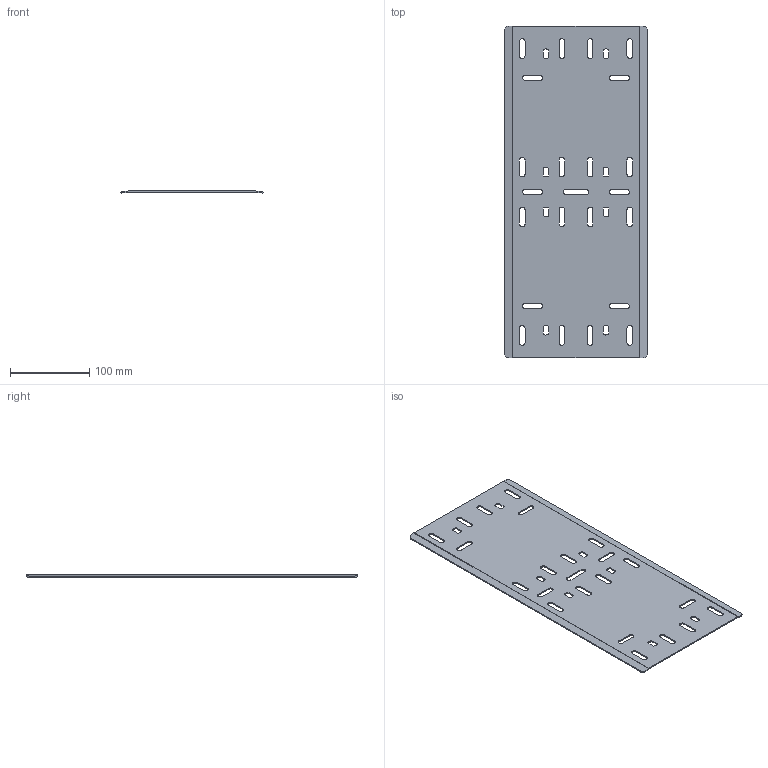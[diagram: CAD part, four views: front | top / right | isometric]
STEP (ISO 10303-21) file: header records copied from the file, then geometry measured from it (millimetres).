
FILE_DESCRIPTION(('CATIA V5 STEP Exchange','CAx-IF Rec.Pracs.--- Model Styling and Organization---1.2---2011-12-15'),'2;1');
FILE_NAME('C:\Users\andrea brignoli\Desktop\Bottom Plate\LG-481182.stp','2018-04-10T14:19:54+00:00',('none'),('none'),'CATIA Version 5-6 Release 2014 SP4','CATIA V5 STEP AP214','none');
FILE_SCHEMA(('AUTOMOTIVE_DESIGN { 1 0 10303 214 1 1 1 1 }'));
Length unit declared in the file: millimetre
Products named in the file (1): D008798
Bounding box: 180 x 420 x 3 mm (x, y, z)
Volume: 106672.9 mm3; surface area: 146452.7 mm2
Topology: 1 solids, 1 shells, 150 faces, 428 edges, 280 vertices
Faces by surface type: plane 80, cylinder 70
Entity records: 6254 total; most frequent: CARTESIAN_POINT 2313, ORIENTED_EDGE 856, DIRECTION 601, EDGE_CURVE 428, VECTOR 288, LINE 288, VERTEX_POINT 280, EDGE_LOOP 212
